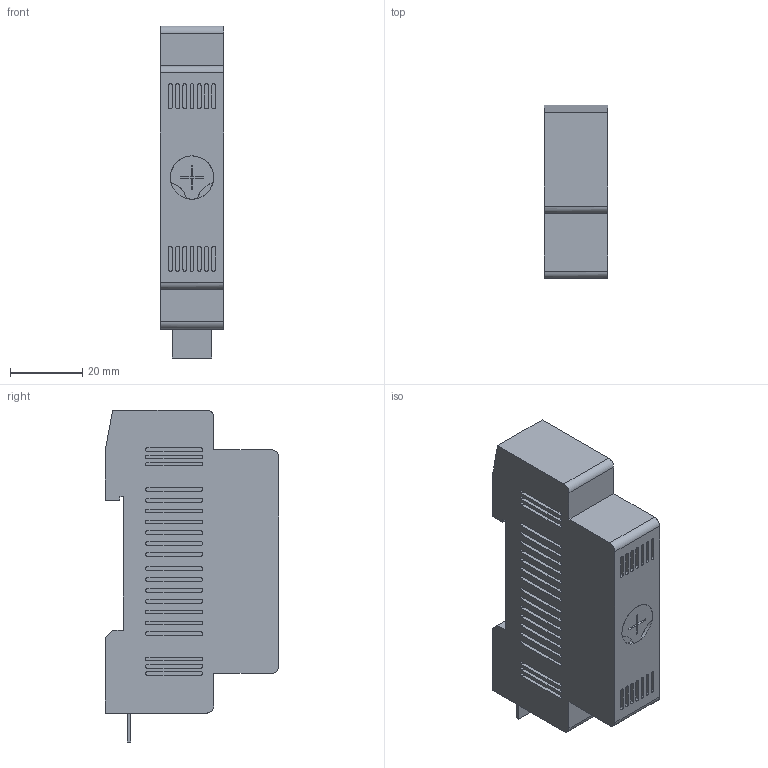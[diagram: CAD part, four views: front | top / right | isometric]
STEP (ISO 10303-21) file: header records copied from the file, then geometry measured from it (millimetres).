
FILE_DESCRIPTION(/* description */ (''),/* implementation_level */ '2;1');
FILE_NAME(/* name */ 'SQ0832~2',/* time_stamp */ '2024-07-11T09:18:19+03:00',/* author */ (''),/* organization */ (''),/* preprocessor_version */ 'ST-DEVELOPER v16.5',/* originating_system */ '',/* authorisation */ '');
FILE_SCHEMA (('CONFIG_CONTROL_DESIGN'));
Length unit declared in the file: millimetre
Products named in the file (1): Document
Bounding box: 17.5 x 48 x 92 mm (x, y, z)
Volume: 58427.2 mm3; surface area: 16031.5 mm2
Topology: 3 solids, 3 shells, 324 faces, 787 edges, 525 vertices
Faces by surface type: plane 208, cylinder 116
Full cylindrical faces by diameter (mm): 12 x2
Entity records: 8704 total; most frequent: CARTESIAN_POINT 3116, ORIENTED_EDGE 1574, EDGE_CURVE 787, B_SPLINE_CURVE_WITH_KNOTS 550, VERTEX_POINT 525, EDGE_LOOP 380, DIRECTION 328, AXIS2_PLACEMENT_3D 326
